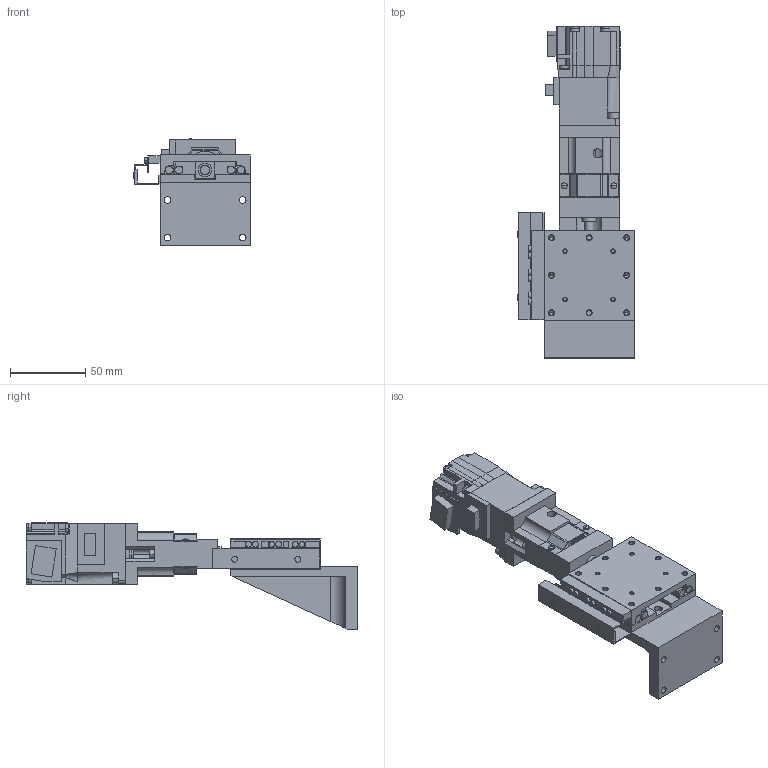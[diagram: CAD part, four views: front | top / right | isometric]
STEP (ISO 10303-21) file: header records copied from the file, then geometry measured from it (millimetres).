
FILE_DESCRIPTION(('STEP AP203'),'1');
FILE_NAME('C:/3D-Trans/3D_PZG615T-L□-UA+240125.step','2024-02-27T01:32:03',(' '),(' '),'Spatial InterOp 3D',' ',' ');
FILE_SCHEMA(('CONFIG_CONTROL_DESIGN'));
Length unit declared in the file: millimetre
Products named in the file (7): 1; 2; 3; 4; 5; 6; 7
Bounding box: 77.4 x 220.9 x 70.71 mm (x, y, z)
Volume: 267101.3 mm3; surface area: 85339.2 mm2
Topology: 7 solids, 7 shells, 729 faces, 1876 edges, 1185 vertices
Faces by surface type: plane 387, cylinder 261, cone 64, bspline 9, torus 8
Entity records: 22577 total; most frequent: CARTESIAN_POINT 4107, DIRECTION 3888, ORIENTED_EDGE 3696, EDGE_CURVE 1848, AXIS2_PLACEMENT_3D 1339, LINE 1210, VECTOR 1210, VERTEX_POINT 1185
